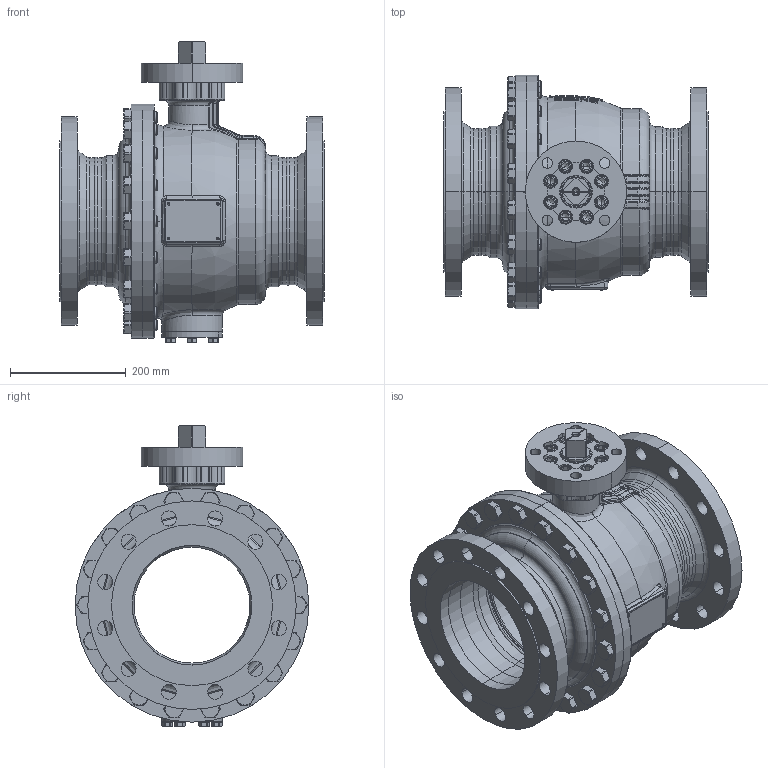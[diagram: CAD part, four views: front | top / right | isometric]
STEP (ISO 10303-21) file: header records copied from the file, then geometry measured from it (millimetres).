
FILE_DESCRIPTION((''),'2;1');
FILE_NAME('KHI-F_200_PN025-F14-4_SW0001','2026-02-05T12:42:03',('fischerkl'),('KLINGER'),'CREO PARAMETRIC BY PTC INC, 2023014','CREO PARAMETRIC BY PTC INC, 2023014','');
FILE_SCHEMA(('CONFIG_CONTROL_DESIGN'));
Products named in the file (1): KHI-F_200_PN025-F14-4_SW0001
Bounding box: 457 x 404 x 519.2 mm (x, y, z)
Volume: 13704133.5 mm3; surface area: 2301149.5 mm2
Topology: 1 solids, 4 shells, 3809 faces, 9754 edges, 6079 vertices
Faces by surface type: plane 2302, cylinder 718, cone 364, torus 287, bspline 108, sphere 30
Entity records: 148563 total; most frequent: CARTESIAN_POINT 58297, ORIENTED_EDGE 19456, DIRECTION 17943, EDGE_CURVE 9728, AXIS2_PLACEMENT_3D 6371, VERTEX_POINT 6079, VECTOR 5201, LINE 5201
